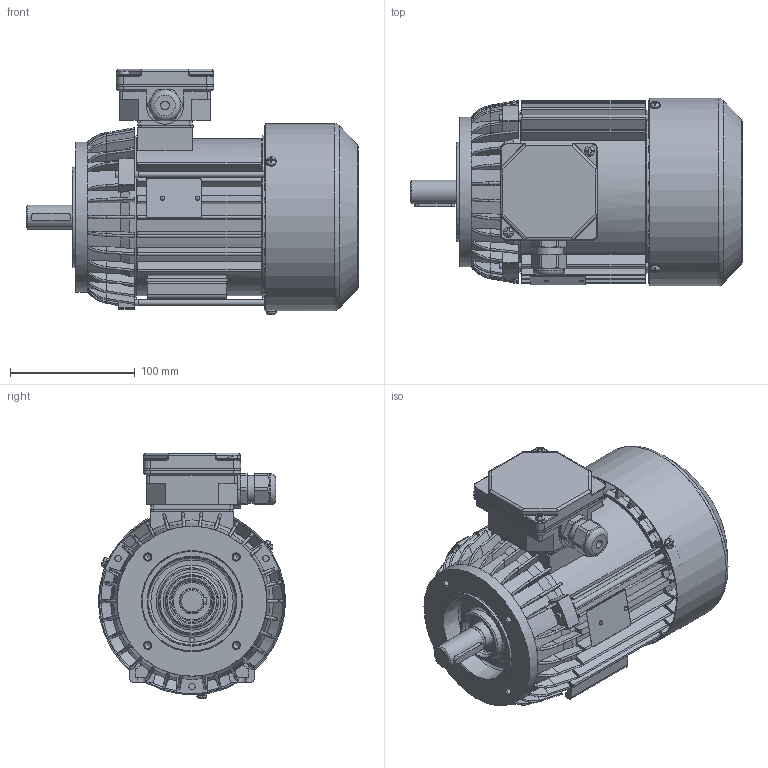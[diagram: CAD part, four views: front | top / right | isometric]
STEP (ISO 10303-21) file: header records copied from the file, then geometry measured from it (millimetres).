
FILE_DESCRIPTION(/* description */ ('Unknown'),/* implementation_level */ '2;1');
FILE_NAME(/* name */ 'SKh80-2A2',/* time_stamp */ '2019-02-13T11:32:49+01:00',/* author */ ('Klaudiusz Szlosek'),/* organization */ ('BESEL S.A.'),/* preprocessor_version */ 'ST-DEVELOPER v16.7',/* originating_system */ 'DEX',/* authorisation */ $);
FILE_SCHEMA (('AUTOMOTIVE_DESIGN {1 0 10303 214 3 1 1}'));
Products named in the file (1): Czêœæ3
Bounding box: 265.77 x 149.88 x 196.68 mm (x, y, z)
Volume: 773683.5 mm3; surface area: 473901.6 mm2
Topology: 2 solids, 2 shells, 2489 faces, 7198 edges, 4656 vertices
Faces by surface type: plane 1200, cylinder 755, bspline 280, torus 127, cone 109, sphere 18
Full cylindrical faces by diameter (mm): 2 x2, 2.4 x2, 3 x1, 3.7 x8, 4 x4, 4.5 x1, 4.6 x3, 4.8 x2, 5 x12, 5.5 x3, 7 x1, 8 x9, 18.596 x1, 18.996 x1, 19.296 x1, 19.496 x2, 19.896 x1, 20.296 x2, 20.396 x2, 20.4 x2, 22.3 x1, 25 x1, 25.495 x1, 25.645 x1, 25.995 x3, 26.045 x1, 28.796 x4, 30 x1, 34 x1, 38.198 x4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
Entity records: 104905 total; most frequent: CARTESIAN_POINT 25518, ORIENTED_EDGE 13546, DIRECTION 12054, EDGE_CURVE 6773, VERTEX_POINT 4503, AXIS2_PLACEMENT_3D 4363, LINE 3328, VECTOR 3328
